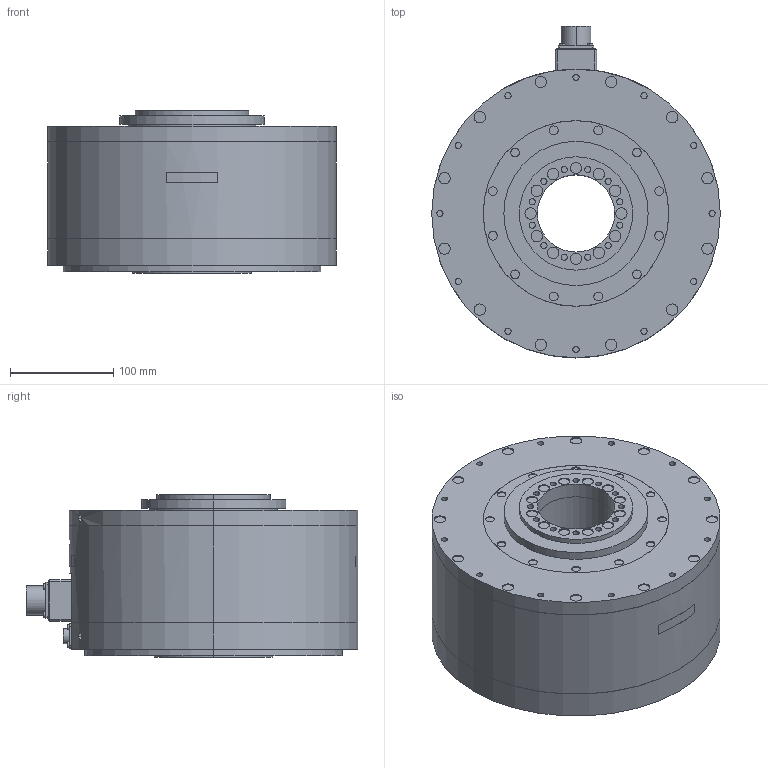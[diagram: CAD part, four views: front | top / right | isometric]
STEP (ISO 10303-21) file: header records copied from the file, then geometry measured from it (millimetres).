
FILE_DESCRIPTION (( 'STEP AP203' ), '1' );
FILE_NAME ('sgm7f_45m_a1_.STEP', '2016-08-19T11:03:00', ( '' ), ( '' ), 'SwSTEP 2.0', 'SolidWorks 2010', '' );
FILE_SCHEMA (( 'CONFIG_CONTROL_DESIGN' ));
Length unit declared in the file: millimetre
Products named in the file (1): sgm7f_45m_a1_
Bounding box: 280 x 322 x 157.5 mm (x, y, z)
Volume: 7938898.1 mm3; surface area: 323928.2 mm2
Topology: 1 solids, 1 shells, 536 faces, 1134 edges, 756 vertices
Faces by surface type: cylinder 324, plane 207, bspline 5
Entity records: 15359 total; most frequent: CARTESIAN_POINT 3062, DIRECTION 2830, ORIENTED_EDGE 2268, AXIS2_PLACEMENT_3D 1188, EDGE_CURVE 1134, VERTEX_POINT 756, EDGE_LOOP 694, CIRCLE 656
